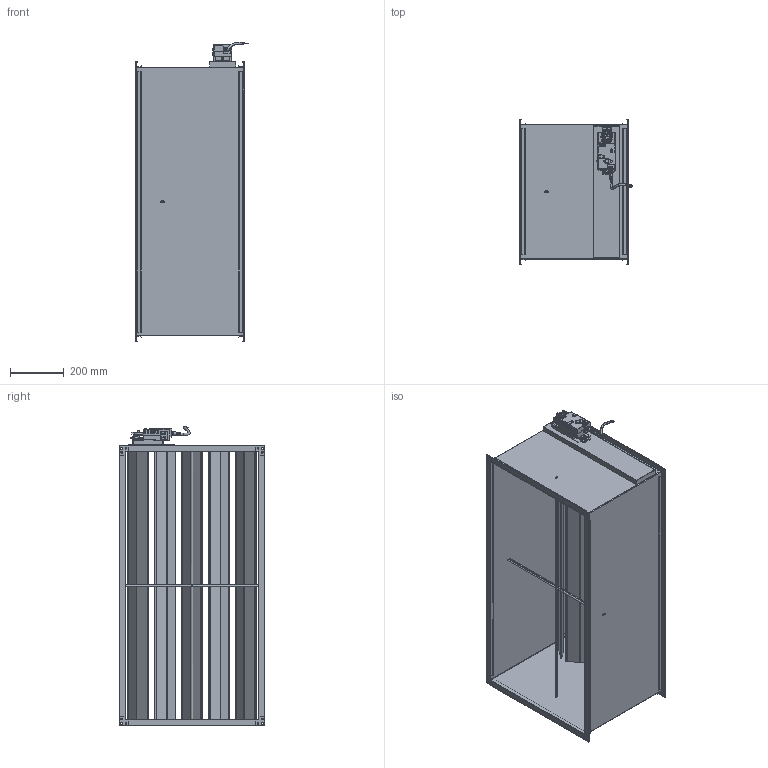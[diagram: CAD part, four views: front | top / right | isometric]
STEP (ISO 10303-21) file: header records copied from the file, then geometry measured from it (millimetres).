
FILE_DESCRIPTION (( 'STEP AP214' ), '1' );
FILE_NAME ('VAV-S1000500.STEP', '2025-05-08T12:47:29', ( '' ), ( '' ), 'SwSTEP 2.0', 'SolidWorks 2025', '' );
FILE_SCHEMA (( 'AUTOMOTIVE_DESIGN' ));
Length unit declared in the file: millimetre
Products named in the file (1): VAV-S1000500
Bounding box: 420.12 x 541 x 1113.68 mm (x, y, z)
Surface area: 4787810.9 mm2 (no closed solid volume)
Topology: 0 solids, 48 shells, 2094 faces, 5475 edges, 3485 vertices
Faces by surface type: plane 1539, cylinder 502, bspline 24, sphere 18, cone 10, torus 1
Full cylindrical faces by diameter (mm): 1 x4, 6 x17, 8 x1, 9 x8, 11 x1, 20 x1, 21 x2
Entity records: 91952 total; most frequent: CARTESIAN_POINT 41606, ORIENTED_EDGE 10729, DIRECTION 6908, EDGE_CURVE 5388, VERTEX_POINT 3457, B_SPLINE_CURVE_WITH_KNOTS 3170, AXIS2_PLACEMENT_3D 2631, EDGE_LOOP 2300
